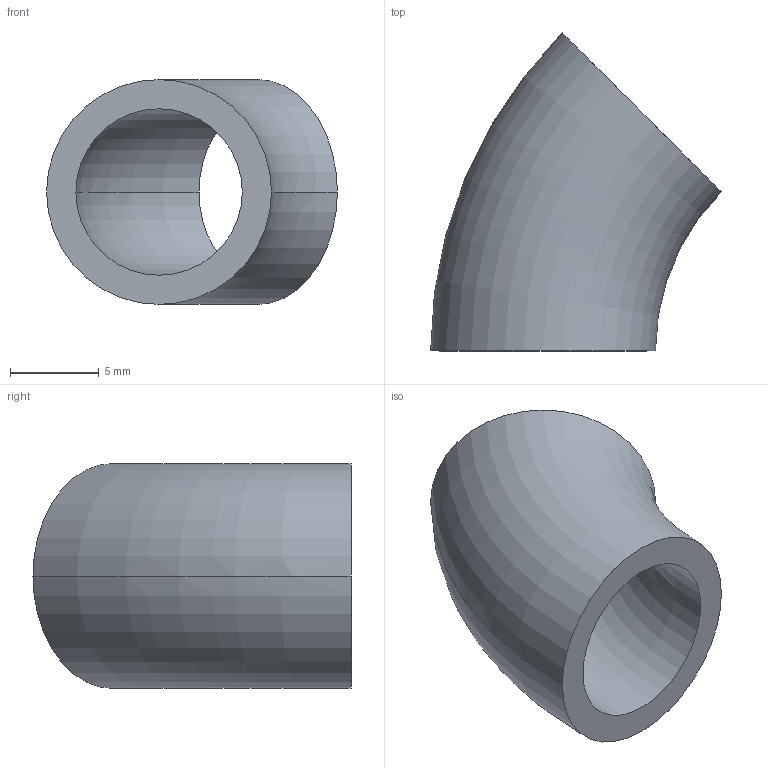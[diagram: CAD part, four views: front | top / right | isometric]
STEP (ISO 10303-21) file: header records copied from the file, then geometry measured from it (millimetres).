
FILE_DESCRIPTION (( 'STEP AP203' ), '1' );
FILE_NAME ('E2WK.50.STEP', '2018-04-30T18:14:22', ( 'vneprd' ), ( 'Microsoft' ), 'SwSTEP 2.0', 'SolidWorks 2014', '' );
FILE_SCHEMA (( 'CONFIG_CONTROL_DESIGN' ));
Length unit declared in the file: inch
Products named in the file (1): E2WK.50
Bounding box: 16.42 x 17.96 x 12.7 mm (x, y, z)
Volume: 857.4 mm3; surface area: 1153.3 mm2
Topology: 1 solids, 1 shells, 6 faces, 12 edges, 8 vertices
Faces by surface type: torus 4, plane 2
Entity records: 251 total; most frequent: DIRECTION 38, CARTESIAN_POINT 27, ORIENTED_EDGE 24, AXIS2_PLACEMENT_3D 19, CIRCLE 12, EDGE_CURVE 12, EDGE_LOOP 8, VERTEX_POINT 8
